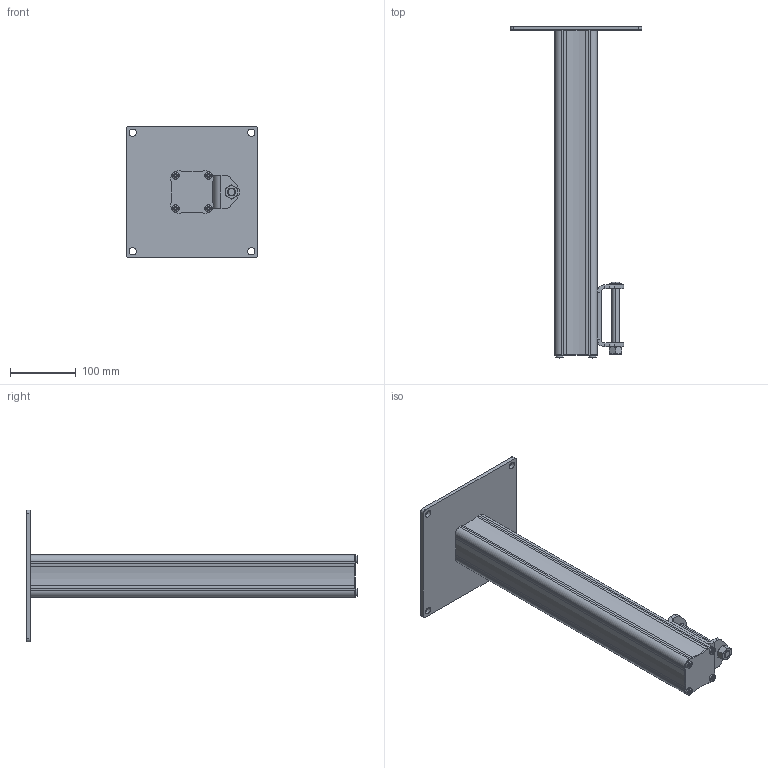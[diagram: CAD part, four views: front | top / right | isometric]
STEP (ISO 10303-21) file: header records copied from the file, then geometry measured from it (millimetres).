
FILE_DESCRIPTION((''),'2;1');
FILE_NAME('139919','2020-01-08T08:01:05',('Tomas Bellgran'),(''),'CREO PARAMETRIC BY PTC INC, 2018260','CREO PARAMETRIC BY PTC INC, 2018260','');
FILE_SCHEMA(('AUTOMOTIVE_DESIGN { 1 0 10303 214 1 1 1 1 }'));
Length unit declared in the file: millimetre
Products named in the file (10): 138774; 139906; 139460; 100-6306; 9908480; 135516; 118449; 102078; 9967826; 139919
Assembly tree (16 placements, depth 2):
  139919
    138774
    139906
    139460
    100-6306
    9908480
    135516
    118449  x4
    102078  x4
    9967826  x2
Bounding box: 200 x 504 x 200 mm (x, y, z)
Volume: 2160563.4 mm3; surface area: 284271.2 mm2
Topology: 16 solids, 18 shells, 378 faces, 889 edges, 559 vertices
Faces by surface type: cylinder 194, plane 111, cone 58, sphere 10, torus 5
Entity records: 15300 total; most frequent: CARTESIAN_POINT 4596, DIRECTION 1612, ORIENTED_EDGE 1250, AXIS2_PLACEMENT_3D 645, EDGE_CURVE 629, PROPERTY_DEFINITION 510, REPRESENTATION 499, PROPERTY_DEFINITION_REPRESENTATION 499
